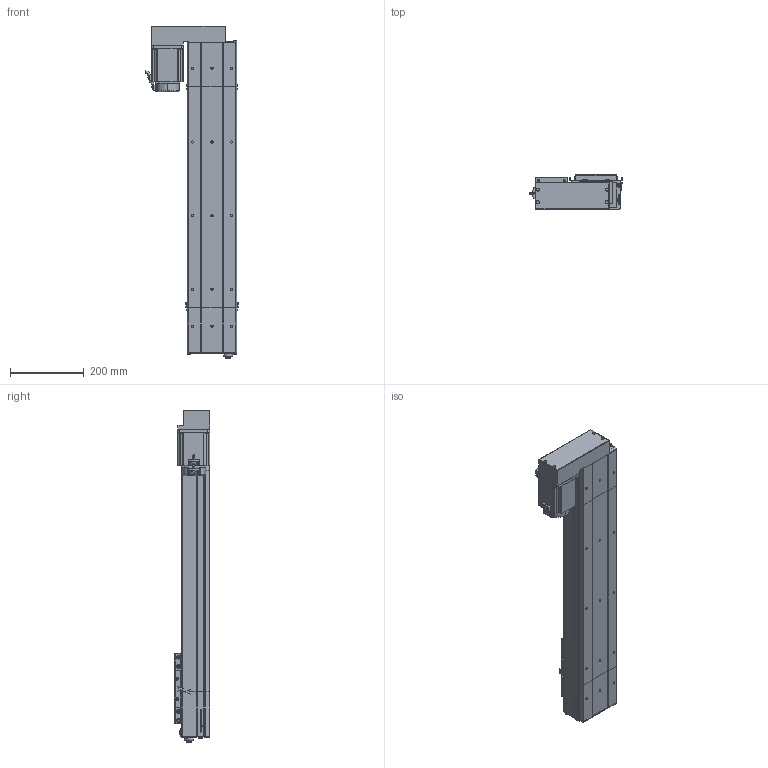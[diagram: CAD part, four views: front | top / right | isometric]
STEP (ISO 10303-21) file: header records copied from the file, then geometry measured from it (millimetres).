
FILE_DESCRIPTION (( 'STEP AP214' ), '1' );
FILE_NAME ('D14 CSH BR S600.STEP', '2010-06-29T15:12:24', ( 'Conseil Régional Haute-Normandie' ), ( 'Conseil Régional Haute-Normandie' ), 'SwSTEP 2.0', 'SolidWorks 2010', '' );
FILE_SCHEMA (( 'AUTOMOTIVE_DESIGN' ));
Length unit declared in the file: millimetre
Products named in the file (26): Conecteur2_Default; plaque de bout tail d14; charriot inférieur D14; Conecteur_Default; Tail D14; cours CSH S600; corps  CSH 600; vis CHC M5.5; chariot D14; couvercle tail; couvercle CSH course S600; chariot supérieur D14; plaque de maintient D14; corps tail d14; vis CHC M7; vis CHC M5; Vis CHC M8; couvercle head d14; corps head d14; GMB 90 100 310; Head D14  CSH BR; plaque de bout head d14 BR; codeur GMB 90 100 310; corps GMB 90 100 310; D14 CSH BR S600; avant GMB 90 100 310
Assembly tree (48 placements, depth 4):
  D14 CSH BR S600
    chariot D14
      vis CHC M7  x8
      vis CHC M5  x4
      charriot inférieur D14
      chariot supérieur D14
    cours CSH S600
      corps  CSH 600
      couvercle CSH course S600
    Head D14  CSH BR
      vis CHC M7  x2
      GMB 90 100 310
        codeur GMB 90 100 310
        Conecteur2_Default
        avant GMB 90 100 310
        Conecteur_Default
        corps GMB 90 100 310
      corps head d14
      plaque de bout head d14 BR
      couvercle head d14
      Vis CHC M8  x2
      vis CHC M5.5  x4
      plaque de maintient D14
    Tail D14
      plaque de maintient D14
      Vis CHC M8  x2
      corps tail d14
      plaque de bout tail d14
      vis CHC M7  x4
      couvercle tail
Bounding box: 250.75 x 95.75 x 901.3 mm (x, y, z)
Volume: 3835490.3 mm3; surface area: 1038398.2 mm2
Topology: 49 solids, 49 shells, 2438 faces, 6265 edges, 4128 vertices
Faces by surface type: plane 1375, bspline 538, cylinder 412, torus 61, cone 52
Entity records: 107300 total; most frequent: CARTESIAN_POINT 57945, ORIENTED_EDGE 10782, DIRECTION 8048, EDGE_CURVE 5391, VECTOR 3634, LINE 3634, VERTEX_POINT 3576, EDGE_LOOP 2301
